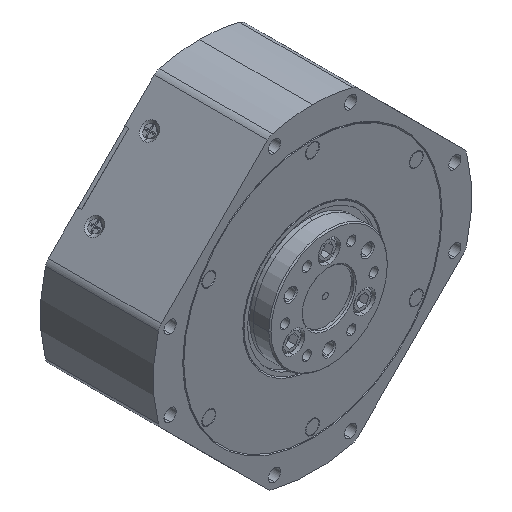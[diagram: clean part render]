
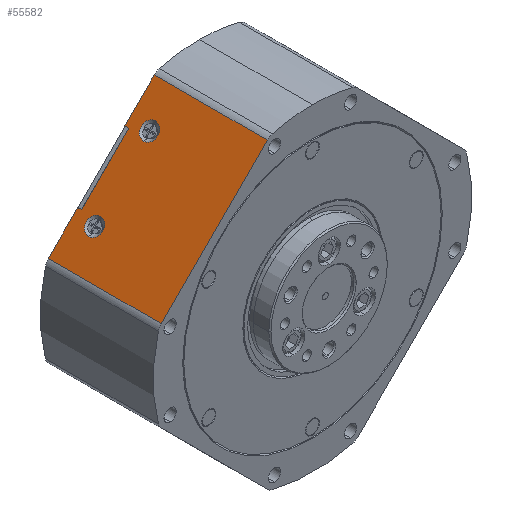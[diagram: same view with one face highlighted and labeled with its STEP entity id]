
A CAD part, isometric view. The second image highlights one B-rep face of the part: STEP entity #55582.
In plain terms, the highlighted planar face has unit normal (-0.707, 0, 0.707).
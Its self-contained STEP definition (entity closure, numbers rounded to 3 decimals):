
#50 = CARTESIAN_POINT ( 'NONE',  ( -53.033, -1., 0. ) ) ;
#767 = VERTEX_POINT ( 'NONE', #4300 ) ;
#1054 = CARTESIAN_POINT ( 'NONE',  ( -20.153, -1., 32.88 ) ) ;
#1300 = EDGE_CURVE ( 'NONE', #52013, #16439, #99315, .T. ) ;
#1341 = DIRECTION ( 'NONE',  ( 0.707, 0., 0.707 ) ) ;
#1654 = VERTEX_POINT ( 'NONE', #81979 ) ;
#3118 = LINE ( 'NONE', #97247, #88495 ) ;
#4300 = CARTESIAN_POINT ( 'NONE',  ( -40.83, -1., 12.203 ) ) ;
#5076 = AXIS2_PLACEMENT_3D ( 'NONE', #57557, #20645, #12569 ) ;
#5355 = AXIS2_PLACEMENT_3D ( 'NONE', #69143, #63534, #1341 ) ;
#6242 = DIRECTION ( 'NONE',  ( 0., -1., 0. ) ) ;
#12450 = EDGE_CURVE ( 'NONE', #13537, #89465, #3118, .T. ) ;
#12569 = DIRECTION ( 'NONE',  ( 0.707, 0., 0.707 ) ) ;
#12735 = EDGE_CURVE ( 'NONE', #89465, #16439, #50999, .T. ) ;
#13302 = AXIS2_PLACEMENT_3D ( 'NONE', #39881, #40861, #17593 ) ;
#13537 = VERTEX_POINT ( 'NONE', #87310 ) ;
#14102 = AXIS2_PLACEMENT_3D ( 'NONE', #50, #61261, #38040 ) ;
#14239 = CARTESIAN_POINT ( 'NONE',  ( -19.092, 23.9, 33.941 ) ) ;
#14283 = ORIENTED_EDGE ( 'NONE', *, *, #43087, .F. ) ;
#14514 = VECTOR ( 'NONE', #60764, 1000. ) ;
#14704 = VERTEX_POINT ( 'NONE', #24248 ) ;
#16030 = EDGE_CURVE ( 'NONE', #14704, #94785, #90783, .T. ) ;
#16439 = VERTEX_POINT ( 'NONE', #32717 ) ;
#17593 = DIRECTION ( 'NONE',  ( 0.707, 0., 0.707 ) ) ;
#18491 = EDGE_CURVE ( 'NONE', #13537, #767, #60375, .T. ) ;
#20645 = DIRECTION ( 'NONE',  ( -0.707, 0., 0.707 ) ) ;
#20851 = FACE_BOUND ( 'NONE', #73332, .T. ) ;
#22325 = VECTOR ( 'NONE', #41910, 1000. ) ;
#24020 = VERTEX_POINT ( 'NONE', #91852 ) ;
#24248 = CARTESIAN_POINT ( 'NONE',  ( -32.35, 23.9, 20.683 ) ) ;
#28359 = CARTESIAN_POINT ( 'NONE',  ( -12.203, -1., 40.83 ) ) ;
#32575 = VERTEX_POINT ( 'NONE', #55805 ) ;
#32717 = CARTESIAN_POINT ( 'NONE',  ( -32.88, 28.5, 20.153 ) ) ;
#33989 = DIRECTION ( 'NONE',  ( 0.707, 0., 0.707 ) ) ;
#34898 = VERTEX_POINT ( 'NONE', #66147 ) ;
#35202 = ORIENTED_EDGE ( 'NONE', *, *, #95834, .F. ) ;
#37535 = DIRECTION ( 'NONE',  ( -0.707, 0., -0.707 ) ) ;
#37702 = VECTOR ( 'NONE', #80487, 1000. ) ;
#38040 = DIRECTION ( 'NONE',  ( 0.707, 0., 0.707 ) ) ;
#39495 = EDGE_CURVE ( 'NONE', #34898, #24020, #53226, .T. ) ;
#39672 = ORIENTED_EDGE ( 'NONE', *, *, #60345, .F. ) ;
#39881 = CARTESIAN_POINT ( 'NONE',  ( -33.941, 23.9, 19.092 ) ) ;
#39902 = ORIENTED_EDGE ( 'NONE', *, *, #18491, .T. ) ;
#40861 = DIRECTION ( 'NONE',  ( -0.707, 0., 0.707 ) ) ;
#41757 = VECTOR ( 'NONE', #58721, 1000. ) ;
#41910 = DIRECTION ( 'NONE',  ( 0., -1., 0. ) ) ;
#42111 = ORIENTED_EDGE ( 'NONE', *, *, #57589, .F. ) ;
#43087 = EDGE_CURVE ( 'NONE', #1654, #32575, #73428, .T. ) ;
#44624 = FACE_BOUND ( 'NONE', #67890, .T. ) ;
#45092 = DIRECTION ( 'NONE',  ( -0.707, 0., 0.707 ) ) ;
#45223 = ORIENTED_EDGE ( 'NONE', *, *, #87620, .T. ) ;
#46045 = VECTOR ( 'NONE', #6242, 1000. ) ;
#48986 = CIRCLE ( 'NONE', #5355, 2.25 ) ;
#50999 = LINE ( 'NONE', #96572, #22325 ) ;
#51228 = ORIENTED_EDGE ( 'NONE', *, *, #1300, .T. ) ;
#51933 = ORIENTED_EDGE ( 'NONE', *, *, #12450, .F. ) ;
#52013 = VERTEX_POINT ( 'NONE', #56457 ) ;
#52667 = DIRECTION ( 'NONE',  ( 0.707, 0., 0.707 ) ) ;
#53226 = CIRCLE ( 'NONE', #100111, 2.25 ) ;
#55582 = ADVANCED_FACE ( 'NONE', ( #91199, #20851, #44624 ), #69353, .T. ) ;
#55805 = CARTESIAN_POINT ( 'NONE',  ( -12.203, 29.5, 40.83 ) ) ;
#56457 = CARTESIAN_POINT ( 'NONE',  ( -20.153, 28.5, 32.88 ) ) ;
#56870 = CIRCLE ( 'NONE', #13302, 2.25 ) ;
#57557 = CARTESIAN_POINT ( 'NONE',  ( -33.941, 23.9, 19.092 ) ) ;
#57589 = EDGE_CURVE ( 'NONE', #24020, #34898, #48986, .T. ) ;
#57632 = ORIENTED_EDGE ( 'NONE', *, *, #12735, .F. ) ;
#58284 = DIRECTION ( 'NONE',  ( 0.707, 0., 0.707 ) ) ;
#58721 = DIRECTION ( 'NONE',  ( 0.707, 0., 0.707 ) ) ;
#60345 = EDGE_CURVE ( 'NONE', #52013, #1654, #99296, .T. ) ;
#60375 = LINE ( 'NONE', #84688, #46045 ) ;
#60764 = DIRECTION ( 'NONE',  ( 0., 1., 0. ) ) ;
#61261 = DIRECTION ( 'NONE',  ( -0.707, 0., 0.707 ) ) ;
#62436 = VECTOR ( 'NONE', #58284, 1000. ) ;
#63534 = DIRECTION ( 'NONE',  ( -0.707, 0., 0.707 ) ) ;
#65297 = CARTESIAN_POINT ( 'NONE',  ( -32.88, 29.5, 20.153 ) ) ;
#66147 = CARTESIAN_POINT ( 'NONE',  ( -17.501, 23.9, 35.532 ) ) ;
#66575 = CARTESIAN_POINT ( 'NONE',  ( -35.532, 23.9, 17.501 ) ) ;
#67890 = EDGE_LOOP ( 'NONE', ( #86850, #42111 ) ) ;
#68589 = VERTEX_POINT ( 'NONE', #74282 ) ;
#69143 = CARTESIAN_POINT ( 'NONE',  ( -19.092, 23.9, 33.941 ) ) ;
#69353 = PLANE ( 'NONE',  #14102 ) ;
#72138 = EDGE_CURVE ( 'NONE', #767, #68589, #90713, .T. ) ;
#72919 = CARTESIAN_POINT ( 'NONE',  ( -53.033, 29.5, 0. ) ) ;
#73332 = EDGE_LOOP ( 'NONE', ( #81886, #35202 ) ) ;
#73428 = LINE ( 'NONE', #72919, #41757 ) ;
#73992 = CARTESIAN_POINT ( 'NONE',  ( -53.033, -1., 0. ) ) ;
#74282 = CARTESIAN_POINT ( 'NONE',  ( -12.203, -1., 40.83 ) ) ;
#75986 = CARTESIAN_POINT ( 'NONE',  ( -53.033, 28.5, 0. ) ) ;
#77874 = VECTOR ( 'NONE', #37535, 1000. ) ;
#80487 = DIRECTION ( 'NONE',  ( 0., 1., 0. ) ) ;
#81886 = ORIENTED_EDGE ( 'NONE', *, *, #16030, .F. ) ;
#81979 = CARTESIAN_POINT ( 'NONE',  ( -20.153, 29.5, 32.88 ) ) ;
#84688 = CARTESIAN_POINT ( 'NONE',  ( -40.83, -1., 12.203 ) ) ;
#86850 = ORIENTED_EDGE ( 'NONE', *, *, #39495, .F. ) ;
#87310 = CARTESIAN_POINT ( 'NONE',  ( -40.83, 29.5, 12.203 ) ) ;
#87337 = EDGE_LOOP ( 'NONE', ( #57632, #51933, #39902, #98337, #45223, #14283, #39672, #51228 ) ) ;
#87620 = EDGE_CURVE ( 'NONE', #68589, #32575, #97706, .T. ) ;
#88495 = VECTOR ( 'NONE', #33989, 1000. ) ;
#89465 = VERTEX_POINT ( 'NONE', #65297 ) ;
#90713 = LINE ( 'NONE', #73992, #62436 ) ;
#90783 = CIRCLE ( 'NONE', #5076, 2.25 ) ;
#91199 = FACE_OUTER_BOUND ( 'NONE', #87337, .T. ) ;
#91852 = CARTESIAN_POINT ( 'NONE',  ( -20.683, 23.9, 32.35 ) ) ;
#94785 = VERTEX_POINT ( 'NONE', #66575 ) ;
#95834 = EDGE_CURVE ( 'NONE', #94785, #14704, #56870, .T. ) ;
#96572 = CARTESIAN_POINT ( 'NONE',  ( -32.88, -1., 20.153 ) ) ;
#97247 = CARTESIAN_POINT ( 'NONE',  ( -53.033, 29.5, 0. ) ) ;
#97706 = LINE ( 'NONE', #28359, #37702 ) ;
#98337 = ORIENTED_EDGE ( 'NONE', *, *, #72138, .T. ) ;
#99296 = LINE ( 'NONE', #1054, #14514 ) ;
#99315 = LINE ( 'NONE', #75986, #77874 ) ;
#100111 = AXIS2_PLACEMENT_3D ( 'NONE', #14239, #45092, #52667 ) ;
